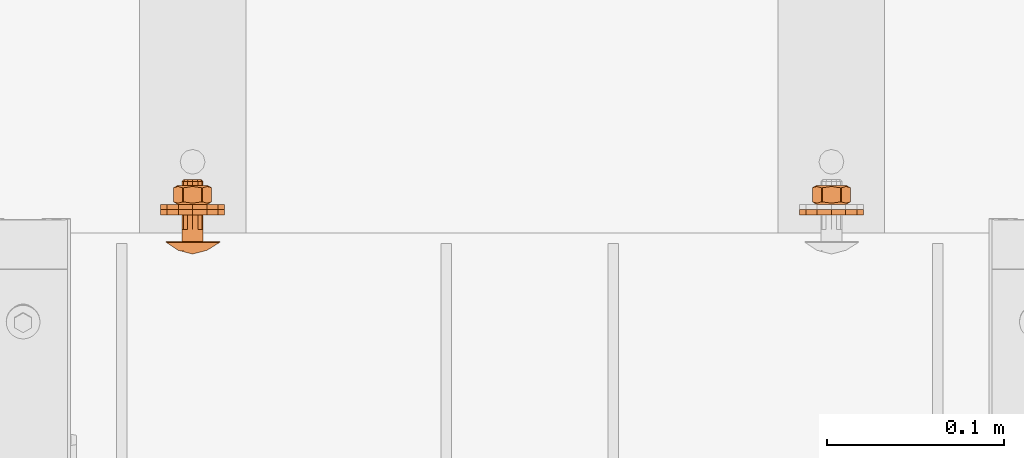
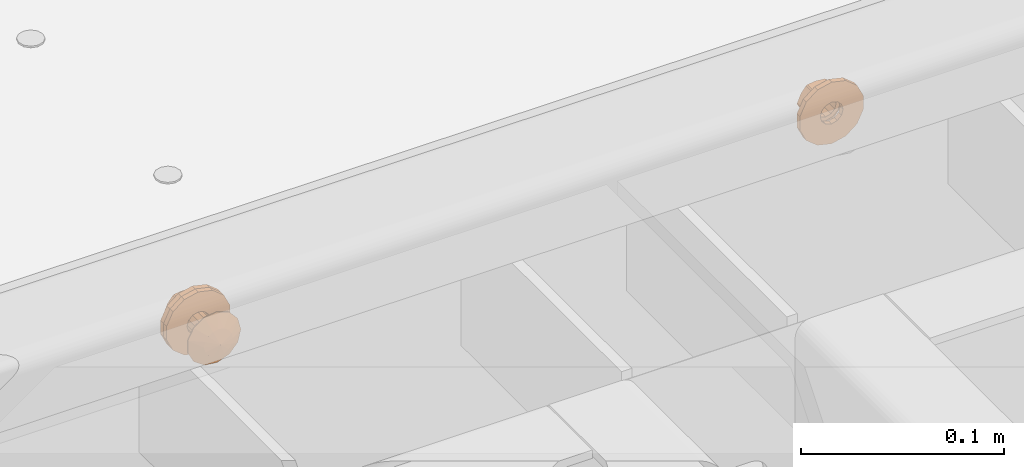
# One storey, part 110 of 116: 6 proxies.
"""IFC2X3 building model written with IfcOpenShell, lengths in millimetres."""

from ifc_helpers import new_model, entity, si_unit, converted_unit, origin_with_axes, place, context, project, spatial, faceted_brep, material, element, save


model = new_model("IFC2X3")

# Units and contexts
model_context = context("Model", 3, precision=1e-09, world=origin_with_axes())
ifc_project = project(units=[si_unit("LENGTHUNIT", "METRE", prefix="MILLI"), si_unit("AREAUNIT", "SQUARE_METRE"), si_unit("VOLUMEUNIT", "CUBIC_METRE"), converted_unit("PLANEANGLEUNIT", "DEGREE", entity("IfcPlaneAngleMeasure", 0.01745329), si_unit("PLANEANGLEUNIT", "RADIAN"), dimensions=[0, 0, 0, 0, 0, 0, 0])], contexts=[model_context])

# Site, building, storey
site_placement = place(None, origin_with_axes())
site = spatial("IfcSite", under=ifc_project, at=site_placement, Name="Site", CompositionType="ELEMENT")
building_placement = place(site_placement, origin_with_axes())
building = spatial("IfcBuilding", under=site, at=building_placement, Name="Struktur 1", CompositionType="ELEMENT")
storey_placement = place(building_placement, origin_with_axes())
storey = spatial("IfcBuildingStorey", under=building, at=storey_placement, Name="Default Storey", CompositionType="ELEMENT", Elevation=0.0)

# Proxies
ifc_material = material(Name="Kein")
proxy_1_placement = place(None, origin_with_axes())
element("IfcBuildingElementProxy", 1, at=proxy_1_placement, inside=storey, material=ifc_material, ObjectType="-", context=model_context, shape_type="Brep", body=[
    faceted_brep([(56576.514516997, 12032.358883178, -63.465438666), (56576.514516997, 12035.358883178, -63.465438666), (56570.077483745, 12035.358883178, -58.332075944), (56570.077483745, 12032.358883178, -58.332075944), (56580.086800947, 12032.358883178, -79.116637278), (56580.086800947, 12032.358883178, -70.883362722), (56562.050634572, 12032.358883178, -56.5), (56554.023785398, 12032.358883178, -58.332075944), (56547.586752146, 12032.358883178, -63.465438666), (56544.014468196, 12032.358883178, -70.883362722), (56544.014468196, 12032.358883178, -79.116637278), (56547.586752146, 12032.358883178, -86.534561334), (56554.023785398, 12032.358883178, -91.667924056), (56562.050634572, 12032.358883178, -93.5), (56570.077483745, 12032.358883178, -91.667924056), (56576.514516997, 12032.358883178, -86.534561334), (56567.679799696, 12032.358883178, -71.75), (56568.550634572, 12032.358883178, -75.0), (56567.679799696, 12032.358883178, -78.25), (56565.300634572, 12032.358883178, -80.629165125), (56562.050634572, 12032.358883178, -81.5), (56558.800634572, 12032.358883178, -80.629165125), (56556.421469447, 12032.358883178, -78.25), (56555.550634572, 12032.358883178, -75.0), (56556.421469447, 12032.358883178, -71.75), (56558.800634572, 12032.358883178, -69.370834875), (56562.050634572, 12032.358883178, -68.5), (56565.300634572, 12032.358883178, -69.370834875), (56554.023785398, 12035.358883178, -58.332075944), (56562.050634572, 12035.358883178, -56.5), (56580.086800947, 12035.358883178, -70.883362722), (56580.086800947, 12035.358883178, -79.116637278), (56576.514516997, 12035.358883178, -86.534561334), (56570.077483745, 12035.358883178, -91.667924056), (56562.050634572, 12035.358883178, -93.5), (56554.023785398, 12035.358883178, -91.667924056), (56547.586752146, 12035.358883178, -86.534561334), (56544.014468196, 12035.358883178, -79.116637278), (56544.014468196, 12035.358883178, -70.883362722), (56547.586752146, 12035.358883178, -63.465438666), (56562.050634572, 12035.358883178, -68.5), (56558.800634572, 12035.358883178, -69.370834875), (56556.421469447, 12035.358883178, -71.75), (56555.550634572, 12035.358883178, -75.0), (56556.421469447, 12035.358883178, -78.25), (56558.800634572, 12035.358883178, -80.629165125), (56562.050634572, 12035.358883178, -81.5), (56565.300634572, 12035.358883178, -80.629165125), (56567.679799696, 12035.358883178, -78.25), (56568.550634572, 12035.358883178, -75.0), (56567.679799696, 12035.358883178, -71.75), (56565.300634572, 12035.358883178, -69.370834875)], [[[0, 1, 2, 3]], [[4, 5, 0, 3, 6, 7, 8, 9, 10, 11, 12, 13, 14, 15], [16, 17, 18, 19, 20, 21, 22, 23, 24, 25, 26, 27]], [[28, 29, 2, 1, 30, 31, 32, 33, 34, 35, 36, 37, 38, 39], [40, 41, 42, 43, 44, 45, 46, 47, 48, 49, 50, 51]], [[1, 0, 5, 30]], [[27, 51, 50, 16]], [[51, 27, 26, 40]], [[3, 2, 29, 6]], [[30, 5, 4, 31]], [[16, 50, 49, 17]], [[40, 26, 25, 41]], [[6, 29, 28, 7]], [[31, 4, 15, 32]], [[17, 49, 48, 18]], [[41, 25, 24, 42]], [[7, 28, 39, 8]], [[32, 15, 14, 33]], [[18, 48, 47, 19]], [[42, 24, 23, 43]], [[8, 39, 38, 9]], [[33, 14, 13, 34]], [[19, 47, 46, 20]], [[22, 44, 43, 23]], [[9, 38, 37, 10]], [[45, 21, 20, 46]], [[44, 22, 21, 45]], [[34, 13, 12, 35]], [[10, 37, 36, 11]], [[35, 12, 11, 36]]]),
])
proxy_2_placement = place(None, origin_with_axes())
element("IfcBuildingElementProxy", 2, at=proxy_2_placement, inside=storey, material=ifc_material, ObjectType="-", context=model_context, shape_type="Brep", body=[
    faceted_brep([(56567.538668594, 12039.773542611, -65.756103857), (56567.538668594, 12047.744223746, -65.756103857), (56567.31206645, 12047.744223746, -65.625275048), (56567.31206645, 12039.773542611, -65.625275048), (56567.762019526, 12039.773542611, -65.892408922), (56566.200634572, 12038.358883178, -67.811989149), (56566.200634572, 12049.158883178, -67.811989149), (56567.762019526, 12047.744223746, -65.892408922), (56567.082347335, 12047.744223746, -65.5), (56567.082347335, 12039.773542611, -65.5), (56572.793732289, 12047.744223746, -74.607591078), (56572.793732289, 12039.773542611, -74.607591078), (56572.800100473, 12039.773542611, -74.869171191), (56572.800100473, 12047.744223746, -74.869171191), (56570.277875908, 12039.051703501, -70.25), (56570.277875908, 12048.466062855, -70.25), (56572.800100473, 12039.773542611, -75.130828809), (56572.800100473, 12047.744223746, -75.130828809), (56570.350634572, 12049.158883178, -75.0), (56562.050634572, 12048.466062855, -65.5), (56557.018921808, 12047.744223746, -65.5), (56557.018921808, 12039.773542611, -65.5), (56562.050634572, 12039.051703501, -65.5), (56572.793732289, 12039.773542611, -75.392408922), (56572.793732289, 12047.744223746, -75.392408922), (56570.350634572, 12038.358883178, -75.0), (56569.238645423, 12038.358883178, -70.85), (56562.050634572, 12038.358883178, -66.7), (56557.900634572, 12038.358883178, -67.811989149), (56554.86262372, 12038.358883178, -70.85), (56553.750634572, 12038.358883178, -75.0), (56554.86262372, 12038.358883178, -79.15), (56557.900634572, 12038.358883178, -82.188010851), (56562.050634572, 12038.358883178, -83.3), (56566.200634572, 12038.358883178, -82.188010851), (56569.238645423, 12038.358883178, -79.15), (56559.050634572, 12038.358883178, -69.803847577), (56562.050634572, 12038.358883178, -69.0), (56565.050634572, 12038.358883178, -69.803847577), (56567.246786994, 12038.358883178, -72.0), (56568.050634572, 12038.358883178, -75.0), (56567.246786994, 12038.358883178, -78.0), (56565.050634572, 12038.358883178, -80.196152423), (56562.050634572, 12038.358883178, -81.0), (56559.050634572, 12038.358883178, -80.196152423), (56556.854482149, 12038.358883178, -78.0), (56556.050634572, 12038.358883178, -75.0), (56556.854482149, 12038.358883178, -72.0), (56565.050634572, 12049.158883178, -69.803847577), (56567.246786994, 12049.158883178, -72.0), (56569.238645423, 12049.158883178, -70.85), (56569.238645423, 12049.158883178, -79.15), (56566.200634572, 12049.158883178, -82.188010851), (56562.050634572, 12049.158883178, -83.3), (56557.900634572, 12049.158883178, -82.188010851), (56554.86262372, 12049.158883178, -79.15), (56553.750634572, 12049.158883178, -75.0), (56554.86262372, 12049.158883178, -70.85), (56557.900634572, 12049.158883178, -67.811989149), (56562.050634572, 12049.158883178, -66.7), (56568.050634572, 12049.158883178, -75.0), (56562.050634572, 12049.158883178, -69.0), (56559.050634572, 12049.158883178, -69.803847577), (56556.854482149, 12049.158883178, -72.0), (56556.050634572, 12049.158883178, -75.0), (56556.854482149, 12049.158883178, -78.0), (56559.050634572, 12049.158883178, -80.196152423), (56562.050634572, 12049.158883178, -81.0), (56565.050634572, 12049.158883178, -80.196152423), (56567.246786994, 12049.158883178, -78.0), (56556.789202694, 12047.744223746, -65.625275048), (56556.789202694, 12039.773542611, -65.625275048), (56570.277875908, 12039.051703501, -79.75), (56567.762019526, 12039.773542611, -84.107591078), (56567.762019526, 12047.744223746, -84.107591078), (56570.277875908, 12048.466062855, -79.75), (56556.562600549, 12047.744223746, -65.756103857), (56556.562600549, 12039.773542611, -65.756103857), (56556.339249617, 12047.744223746, -65.892408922), (56556.339249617, 12039.773542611, -65.892408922), (56553.823393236, 12048.466062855, -70.25), (56551.307536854, 12047.744223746, -74.607591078), (56551.307536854, 12039.773542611, -74.607591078), (56553.823393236, 12039.051703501, -70.25), (56567.538668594, 12039.773542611, -84.243896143), (56567.538668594, 12047.744223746, -84.243896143), (56551.301168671, 12047.744223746, -74.869171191), (56551.301168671, 12039.773542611, -74.869171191), (56567.31206645, 12039.773542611, -84.374724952), (56567.31206645, 12047.744223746, -84.374724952), (56551.301168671, 12047.744223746, -75.130828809), (56551.301168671, 12039.773542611, -75.130828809), (56567.082347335, 12039.773542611, -84.5), (56567.082347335, 12047.744223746, -84.5), (56551.307536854, 12047.744223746, -75.392408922), (56551.307536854, 12039.773542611, -75.392408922), (56562.050634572, 12039.051703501, -84.5), (56557.018921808, 12039.773542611, -84.5), (56557.018921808, 12047.744223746, -84.5), (56562.050634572, 12048.466062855, -84.5), (56553.823393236, 12048.466062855, -79.75), (56556.339249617, 12047.744223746, -84.107591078), (56556.339249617, 12039.773542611, -84.107591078), (56553.823393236, 12039.051703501, -79.75), (56556.789202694, 12039.773542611, -84.374724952), (56556.789202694, 12047.744223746, -84.374724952), (56556.562600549, 12039.773542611, -84.243896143), (56556.562600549, 12047.744223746, -84.243896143)], [[[0, 1, 2, 3]], [[4, 0, 5]], [[1, 6, 2]], [[1, 0, 4, 7]], [[8, 9, 3, 2]], [[3, 5, 0]], [[8, 2, 6]], [[10, 11, 12, 13]], [[14, 11, 10, 15, 7, 4]], [[14, 4, 5]], [[1, 7, 6]], [[13, 12, 16, 17]], [[10, 13, 18]], [[8, 19, 20, 21, 22, 9]], [[3, 9, 5]], [[19, 8, 6]], [[23, 24, 17, 16]], [[12, 25, 16]], [[14, 5, 26]], [[5, 27, 28, 29, 30, 31, 32, 33, 34, 35, 25, 26], [36, 37, 38, 39, 40, 41, 42, 43, 44, 45, 46, 47]], [[38, 48, 49, 39]], [[7, 50, 6]], [[6, 50, 18, 51, 52, 53, 54, 55, 56, 57, 58, 59], [60, 49, 48, 61, 62, 63, 64, 65, 66, 67, 68, 69]], [[17, 18, 13]], [[7, 15, 50]], [[15, 10, 18]], [[21, 20, 70, 71]], [[9, 27, 5]], [[19, 6, 59]], [[48, 38, 37, 61]], [[72, 73, 74, 75, 24, 23]], [[23, 16, 25]], [[12, 11, 25]], [[11, 14, 26]], [[17, 24, 18]], [[15, 18, 50]], [[21, 71, 28]], [[71, 70, 76, 77]], [[9, 22, 27]], [[22, 21, 28]], [[70, 20, 58]], [[20, 19, 59]], [[70, 58, 76]], [[78, 79, 77, 76]], [[24, 75, 51]], [[72, 23, 25]], [[11, 26, 25]], [[39, 49, 60, 40]], [[24, 51, 18]], [[77, 28, 71]], [[22, 28, 27]], [[61, 37, 36, 62]], [[20, 59, 58]], [[78, 76, 58]], [[78, 80, 81, 82, 83, 79]], [[75, 52, 51]], [[72, 25, 35]], [[77, 79, 28]], [[80, 78, 58]], [[75, 74, 52]], [[74, 73, 84, 85]], [[73, 72, 35]], [[40, 60, 69, 41]], [[79, 83, 29]], [[83, 82, 30]], [[82, 81, 86, 87]], [[79, 29, 28]], [[62, 36, 47, 63]], [[80, 58, 57]], [[74, 85, 52]], [[85, 84, 88, 89]], [[73, 35, 34]], [[84, 73, 34]], [[83, 30, 29]], [[82, 87, 30]], [[87, 86, 90, 91]], [[81, 80, 57]], [[81, 56, 86]], [[89, 52, 85]], [[89, 88, 92, 93]], [[68, 42, 41, 69]], [[84, 34, 88]], [[91, 30, 87]], [[91, 90, 94, 95]], [[63, 47, 46, 64]], [[81, 57, 56]], [[90, 86, 56]], [[89, 93, 52]], [[42, 68, 67, 43]], [[66, 44, 43, 67]], [[92, 88, 34]], [[91, 95, 30]], [[45, 65, 64, 46]], [[94, 90, 56]], [[93, 53, 52]], [[96, 97, 98, 99, 93, 92]], [[44, 66, 65, 45]], [[96, 92, 34]], [[95, 31, 30]], [[94, 100, 101, 102, 103, 95]], [[94, 56, 100]], [[93, 99, 53]], [[96, 34, 33]], [[95, 103, 31]], [[100, 56, 55]], [[99, 54, 53]], [[97, 96, 33]], [[103, 32, 31]], [[101, 100, 55]], [[99, 98, 54]], [[97, 33, 32]], [[102, 32, 103]], [[101, 55, 54]], [[98, 97, 104, 105]], [[98, 105, 54]], [[97, 32, 104]], [[102, 106, 32]], [[102, 101, 107, 106]], [[107, 101, 54]], [[107, 54, 105]], [[106, 104, 32]], [[105, 104, 106, 107]]]),
])
proxy_3_placement = place(None, origin_with_axes())
element("IfcBuildingElementProxy", 3, at=proxy_3_placement, inside=storey, material=ifc_material, ObjectType="-", context=model_context, shape_type="Brep", body=[
    faceted_brep([(56566.380761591, 12052.358883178, -72.5), (56567.246786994, 12051.358883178, -72.0), (56568.050634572, 12051.358883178, -75.0), (56567.050634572, 12052.358883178, -75.0), (56564.550634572, 12052.358883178, -70.669872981), (56565.050634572, 12051.358883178, -69.803847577), (56557.720507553, 12052.358883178, -72.5), (56559.550634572, 12052.358883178, -70.669872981), (56562.050634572, 12052.358883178, -70.0), (56566.380761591, 12052.358883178, -77.5), (56564.550634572, 12052.358883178, -79.330127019), (56562.050634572, 12052.358883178, -80.0), (56559.550634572, 12052.358883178, -79.330127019), (56557.720507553, 12052.358883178, -77.5), (56557.050634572, 12052.358883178, -75.0), (56575.620248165, 12017.011383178, -67.878117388), (56570.756226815, 12017.011383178, -62.387772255), (56567.83032902, 12012.523540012, -69.220305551), (56569.602169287, 12012.523540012, -71.872051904), (56562.050634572, 12051.358883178, -69.0), (56565.050634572, 12024.308883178, -69.803847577), (56567.246786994, 12024.308883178, -72.0), (56577.375634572, 12017.011383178, -75.0), (56575.620248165, 12017.358883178, -67.878117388), (56570.756226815, 12017.358883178, -62.387772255), (56567.246786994, 12051.358883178, -78.0), (56565.050634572, 12051.358883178, -80.196152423), (56568.050634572, 12024.308883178, -75.0), (56570.224356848, 12012.523540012, -75.0), (56565.178582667, 12012.523540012, -67.448465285), (56562.050634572, 12010.408883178, -75.0), (56563.897859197, 12017.011383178, -59.786736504), (56559.050634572, 12051.358883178, -69.803847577), (56562.050634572, 12024.308883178, -69.0), (56563.897859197, 12017.358883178, -59.786736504), (56556.854482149, 12051.358883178, -72.0), (56556.050634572, 12051.358883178, -75.0), (56577.375634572, 12017.358883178, -75.0), (56556.854482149, 12051.358883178, -78.0), (56559.050634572, 12051.358883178, -80.196152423), (56562.050634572, 12051.358883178, -81.0), (56568.050634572, 12024.308883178, -69.0), (56569.602169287, 12012.523540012, -78.127948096), (56562.050634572, 12012.523540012, -66.826277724), (56556.616314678, 12017.011383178, -60.670876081), (56559.050634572, 12024.308883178, -69.803847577), (56550.579707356, 12017.358883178, -64.837645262), (56556.616314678, 12017.358883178, -60.670876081), (56575.620248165, 12017.358883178, -82.121882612), (56570.756226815, 12017.358883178, -87.612227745), (56563.897859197, 12017.358883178, -90.213263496), (56556.616314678, 12017.358883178, -89.329123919), (56550.579707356, 12017.358883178, -85.162354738), (56547.17095122, 12017.358883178, -78.667512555), (56547.17095122, 12017.358883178, -71.332487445), (56556.050634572, 12017.358883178, -69.0), (56556.050634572, 12017.358883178, -81.0), (56568.050634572, 12017.358883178, -81.0), (56568.050634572, 12017.358883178, -69.0), (56575.620248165, 12017.011383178, -82.121882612), (56567.246786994, 12024.308883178, -78.0), (56565.050634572, 12024.308883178, -80.196152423), (56567.83032902, 12012.523540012, -80.779694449), (56558.922686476, 12012.523540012, -67.448465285), (56556.854482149, 12024.308883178, -72.0), (56556.050634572, 12024.308883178, -69.0), (56556.050634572, 12024.308883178, -75.0), (56556.854482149, 12024.308883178, -78.0), (56559.050634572, 12024.308883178, -80.196152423), (56562.050634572, 12024.308883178, -81.0), (56568.050634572, 12024.308883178, -81.0), (56570.756226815, 12017.011383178, -87.612227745), (56556.270940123, 12012.523540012, -69.220305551), (56550.579707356, 12017.011383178, -64.837645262), (56556.050634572, 12024.308883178, -81.0), (56565.178582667, 12012.523540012, -82.551534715), (56554.499099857, 12012.523540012, -71.872051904), (56563.897859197, 12017.011383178, -90.213263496), (56562.050634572, 12012.523540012, -83.173722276), (56547.17095122, 12017.011383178, -71.332487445), (56558.922686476, 12012.523540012, -82.551534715), (56553.876912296, 12012.523540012, -75.0), (56556.616314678, 12017.011383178, -89.329123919), (56556.270940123, 12012.523540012, -80.779694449), (56547.17095122, 12017.011383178, -78.667512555), (56554.499099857, 12012.523540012, -78.127948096), (56550.579707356, 12017.011383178, -85.162354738)], [[[0, 1, 2, 3]], [[1, 0, 4, 5]], [[6, 7, 8, 4, 0, 3, 9, 10, 11, 12, 13, 14]], [[15, 16, 17]], [[15, 17, 18]], [[8, 19, 5, 4]], [[5, 20, 21, 1]], [[18, 22, 15]], [[16, 15, 23, 24]], [[9, 25, 26, 10]], [[3, 2, 25, 9]], [[1, 21, 27, 2]], [[18, 28, 22]], [[16, 29, 17]], [[30, 18, 17]], [[16, 31, 29]], [[7, 32, 19, 8]], [[20, 5, 19, 33]], [[24, 34, 31, 16]], [[6, 35, 32, 7]], [[14, 36, 35, 6]], [[15, 22, 37, 23]], [[13, 38, 36, 14]], [[12, 39, 38, 13]], [[11, 40, 39, 12]], [[10, 26, 40, 11]], [[33, 41, 27, 21, 20]], [[28, 42, 22]], [[30, 28, 18]], [[31, 43, 29]], [[30, 17, 29]], [[31, 44, 43]], [[32, 45, 33, 19]], [[46, 47, 34, 24, 23, 37, 48, 49, 50, 51, 52, 53, 54], [55, 56, 57, 58]], [[59, 22, 42]], [[25, 60, 61, 26]], [[2, 27, 60, 25]], [[59, 42, 62]], [[28, 30, 42]], [[30, 29, 43]], [[44, 63, 43]], [[44, 31, 34, 47]], [[45, 32, 35, 64]], [[41, 33, 65, 55, 58]], [[36, 66, 64, 35]], [[38, 67, 66, 36]], [[22, 59, 48, 37]], [[67, 38, 39, 68]], [[40, 69, 68, 39]], [[26, 61, 69, 40]], [[58, 57, 70, 27, 41]], [[71, 59, 62]], [[30, 62, 42]], [[30, 43, 63]], [[44, 72, 63]], [[73, 72, 44]], [[47, 46, 73, 44]], [[66, 65, 33, 45, 64]], [[69, 74, 66, 67, 68]], [[27, 70, 69, 61, 60]], [[59, 71, 49, 48]], [[71, 62, 75]], [[30, 75, 62]], [[72, 30, 63]], [[73, 76, 72]], [[77, 71, 75]], [[30, 78, 75]], [[46, 54, 79, 73]], [[76, 30, 72]], [[79, 76, 73]], [[65, 66, 74, 56, 55]], [[74, 69, 70, 57, 56]], [[71, 77, 50, 49]], [[77, 75, 78]], [[30, 80, 78]], [[81, 30, 76]], [[79, 81, 76]], [[82, 77, 78]], [[80, 30, 83]], [[82, 78, 80]], [[54, 53, 84, 79]], [[85, 30, 81]], [[84, 81, 79]], [[83, 30, 85]], [[77, 82, 51, 50]], [[82, 80, 83]], [[84, 85, 81]], [[86, 83, 85]], [[82, 83, 86]], [[53, 52, 86, 84]], [[86, 85, 84]], [[82, 86, 52, 51]]]),
])
proxy_4_placement = place(None, origin_with_axes())
element("IfcBuildingElementProxy", 4, at=proxy_4_placement, inside=storey, material=ifc_material, ObjectType="-", context=model_context, shape_type="Brep", body=[
    faceted_brep([(56576.514516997, 12035.358883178, -63.465438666), (56576.514516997, 12038.358883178, -63.465438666), (56570.077483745, 12038.358883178, -58.332075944), (56570.077483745, 12035.358883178, -58.332075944), (56580.086800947, 12035.358883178, -79.116637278), (56580.086800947, 12035.358883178, -70.883362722), (56562.050634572, 12035.358883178, -56.5), (56554.023785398, 12035.358883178, -58.332075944), (56547.586752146, 12035.358883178, -63.465438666), (56544.014468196, 12035.358883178, -70.883362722), (56544.014468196, 12035.358883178, -79.116637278), (56547.586752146, 12035.358883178, -86.534561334), (56554.023785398, 12035.358883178, -91.667924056), (56562.050634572, 12035.358883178, -93.5), (56570.077483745, 12035.358883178, -91.667924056), (56576.514516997, 12035.358883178, -86.534561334), (56567.679799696, 12035.358883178, -71.75), (56568.550634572, 12035.358883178, -75.0), (56567.679799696, 12035.358883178, -78.25), (56565.300634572, 12035.358883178, -80.629165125), (56562.050634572, 12035.358883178, -81.5), (56558.800634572, 12035.358883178, -80.629165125), (56556.421469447, 12035.358883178, -78.25), (56555.550634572, 12035.358883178, -75.0), (56556.421469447, 12035.358883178, -71.75), (56558.800634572, 12035.358883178, -69.370834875), (56562.050634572, 12035.358883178, -68.5), (56565.300634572, 12035.358883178, -69.370834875), (56554.023785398, 12038.358883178, -58.332075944), (56562.050634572, 12038.358883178, -56.5), (56580.086800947, 12038.358883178, -70.883362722), (56580.086800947, 12038.358883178, -79.116637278), (56576.514516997, 12038.358883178, -86.534561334), (56570.077483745, 12038.358883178, -91.667924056), (56562.050634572, 12038.358883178, -93.5), (56554.023785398, 12038.358883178, -91.667924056), (56547.586752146, 12038.358883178, -86.534561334), (56544.014468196, 12038.358883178, -79.116637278), (56544.014468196, 12038.358883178, -70.883362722), (56547.586752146, 12038.358883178, -63.465438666), (56562.050634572, 12038.358883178, -68.5), (56558.800634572, 12038.358883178, -69.370834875), (56556.421469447, 12038.358883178, -71.75), (56555.550634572, 12038.358883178, -75.0), (56556.421469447, 12038.358883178, -78.25), (56558.800634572, 12038.358883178, -80.629165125), (56562.050634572, 12038.358883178, -81.5), (56565.300634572, 12038.358883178, -80.629165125), (56567.679799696, 12038.358883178, -78.25), (56568.550634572, 12038.358883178, -75.0), (56567.679799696, 12038.358883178, -71.75), (56565.300634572, 12038.358883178, -69.370834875)], [[[0, 1, 2, 3]], [[4, 5, 0, 3, 6, 7, 8, 9, 10, 11, 12, 13, 14, 15], [16, 17, 18, 19, 20, 21, 22, 23, 24, 25, 26, 27]], [[28, 29, 2, 1, 30, 31, 32, 33, 34, 35, 36, 37, 38, 39], [40, 41, 42, 43, 44, 45, 46, 47, 48, 49, 50, 51]], [[1, 0, 5, 30]], [[27, 51, 50, 16]], [[51, 27, 26, 40]], [[3, 2, 29, 6]], [[30, 5, 4, 31]], [[16, 50, 49, 17]], [[40, 26, 25, 41]], [[6, 29, 28, 7]], [[31, 4, 15, 32]], [[17, 49, 48, 18]], [[41, 25, 24, 42]], [[7, 28, 39, 8]], [[32, 15, 14, 33]], [[18, 48, 47, 19]], [[42, 24, 23, 43]], [[8, 39, 38, 9]], [[33, 14, 13, 34]], [[19, 47, 46, 20]], [[22, 44, 43, 23]], [[9, 38, 37, 10]], [[45, 21, 20, 46]], [[44, 22, 21, 45]], [[34, 13, 12, 35]], [[10, 37, 36, 11]], [[35, 12, 11, 36]]]),
])
proxy_5_placement = place(None, origin_with_axes())
element("IfcBuildingElementProxy", 5, at=proxy_5_placement, inside=storey, material=ifc_material, ObjectType="-", context=model_context, shape_type="Brep", body=[
    faceted_brep([(56936.514516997, 12032.358883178, -63.465438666), (56936.514516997, 12035.358883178, -63.465438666), (56930.077483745, 12035.358883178, -58.332075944), (56930.077483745, 12032.358883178, -58.332075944), (56940.086800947, 12032.358883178, -79.116637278), (56940.086800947, 12032.358883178, -70.883362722), (56922.050634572, 12032.358883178, -56.5), (56914.023785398, 12032.358883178, -58.332075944), (56907.586752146, 12032.358883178, -63.465438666), (56904.014468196, 12032.358883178, -70.883362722), (56904.014468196, 12032.358883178, -79.116637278), (56907.586752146, 12032.358883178, -86.534561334), (56914.023785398, 12032.358883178, -91.667924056), (56922.050634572, 12032.358883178, -93.5), (56930.077483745, 12032.358883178, -91.667924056), (56936.514516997, 12032.358883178, -86.534561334), (56927.679799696, 12032.358883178, -71.75), (56928.550634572, 12032.358883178, -75.0), (56927.679799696, 12032.358883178, -78.25), (56925.300634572, 12032.358883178, -80.629165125), (56922.050634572, 12032.358883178, -81.5), (56918.800634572, 12032.358883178, -80.629165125), (56916.421469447, 12032.358883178, -78.25), (56915.550634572, 12032.358883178, -75.0), (56916.421469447, 12032.358883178, -71.75), (56918.800634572, 12032.358883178, -69.370834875), (56922.050634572, 12032.358883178, -68.5), (56925.300634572, 12032.358883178, -69.370834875), (56914.023785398, 12035.358883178, -58.332075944), (56922.050634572, 12035.358883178, -56.5), (56940.086800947, 12035.358883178, -70.883362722), (56940.086800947, 12035.358883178, -79.116637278), (56936.514516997, 12035.358883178, -86.534561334), (56930.077483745, 12035.358883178, -91.667924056), (56922.050634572, 12035.358883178, -93.5), (56914.023785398, 12035.358883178, -91.667924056), (56907.586752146, 12035.358883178, -86.534561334), (56904.014468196, 12035.358883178, -79.116637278), (56904.014468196, 12035.358883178, -70.883362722), (56907.586752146, 12035.358883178, -63.465438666), (56922.050634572, 12035.358883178, -68.5), (56918.800634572, 12035.358883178, -69.370834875), (56916.421469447, 12035.358883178, -71.75), (56915.550634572, 12035.358883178, -75.0), (56916.421469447, 12035.358883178, -78.25), (56918.800634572, 12035.358883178, -80.629165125), (56922.050634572, 12035.358883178, -81.5), (56925.300634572, 12035.358883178, -80.629165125), (56927.679799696, 12035.358883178, -78.25), (56928.550634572, 12035.358883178, -75.0), (56927.679799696, 12035.358883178, -71.75), (56925.300634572, 12035.358883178, -69.370834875)], [[[0, 1, 2, 3]], [[4, 5, 0, 3, 6, 7, 8, 9, 10, 11, 12, 13, 14, 15], [16, 17, 18, 19, 20, 21, 22, 23, 24, 25, 26, 27]], [[28, 29, 2, 1, 30, 31, 32, 33, 34, 35, 36, 37, 38, 39], [40, 41, 42, 43, 44, 45, 46, 47, 48, 49, 50, 51]], [[1, 0, 5, 30]], [[27, 51, 50, 16]], [[51, 27, 26, 40]], [[3, 2, 29, 6]], [[30, 5, 4, 31]], [[16, 50, 49, 17]], [[40, 26, 25, 41]], [[6, 29, 28, 7]], [[31, 4, 15, 32]], [[17, 49, 48, 18]], [[41, 25, 24, 42]], [[7, 28, 39, 8]], [[32, 15, 14, 33]], [[18, 48, 47, 19]], [[42, 24, 23, 43]], [[8, 39, 38, 9]], [[33, 14, 13, 34]], [[19, 47, 46, 20]], [[22, 44, 43, 23]], [[9, 38, 37, 10]], [[45, 21, 20, 46]], [[44, 22, 21, 45]], [[34, 13, 12, 35]], [[10, 37, 36, 11]], [[35, 12, 11, 36]]]),
])
proxy_6_placement = place(None, origin_with_axes())
element("IfcBuildingElementProxy", 6, at=proxy_6_placement, inside=storey, material=ifc_material, ObjectType="-", context=model_context, shape_type="Brep", body=[
    faceted_brep([(56927.538668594, 12039.773542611, -65.756103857), (56927.538668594, 12047.744223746, -65.756103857), (56927.31206645, 12047.744223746, -65.625275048), (56927.31206645, 12039.773542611, -65.625275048), (56927.762019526, 12039.773542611, -65.892408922), (56926.200634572, 12038.358883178, -67.811989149), (56926.200634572, 12049.158883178, -67.811989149), (56927.762019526, 12047.744223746, -65.892408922), (56927.082347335, 12047.744223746, -65.5), (56927.082347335, 12039.773542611, -65.5), (56932.793732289, 12047.744223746, -74.607591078), (56932.793732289, 12039.773542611, -74.607591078), (56932.800100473, 12039.773542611, -74.869171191), (56932.800100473, 12047.744223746, -74.869171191), (56930.277875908, 12039.051703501, -70.25), (56930.277875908, 12048.466062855, -70.25), (56932.800100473, 12039.773542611, -75.130828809), (56932.800100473, 12047.744223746, -75.130828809), (56930.350634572, 12049.158883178, -75.0), (56922.050634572, 12048.466062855, -65.5), (56917.018921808, 12047.744223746, -65.5), (56917.018921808, 12039.773542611, -65.5), (56922.050634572, 12039.051703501, -65.5), (56932.793732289, 12039.773542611, -75.392408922), (56932.793732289, 12047.744223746, -75.392408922), (56930.350634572, 12038.358883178, -75.0), (56929.238645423, 12038.358883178, -70.85), (56922.050634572, 12038.358883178, -66.7), (56917.900634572, 12038.358883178, -67.811989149), (56914.86262372, 12038.358883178, -70.85), (56913.750634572, 12038.358883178, -75.0), (56914.86262372, 12038.358883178, -79.15), (56917.900634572, 12038.358883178, -82.188010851), (56922.050634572, 12038.358883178, -83.3), (56926.200634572, 12038.358883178, -82.188010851), (56929.238645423, 12038.358883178, -79.15), (56919.050634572, 12038.358883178, -69.803847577), (56922.050634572, 12038.358883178, -69.0), (56925.050634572, 12038.358883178, -69.803847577), (56927.246786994, 12038.358883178, -72.0), (56928.050634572, 12038.358883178, -75.0), (56927.246786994, 12038.358883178, -78.0), (56925.050634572, 12038.358883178, -80.196152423), (56922.050634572, 12038.358883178, -81.0), (56919.050634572, 12038.358883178, -80.196152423), (56916.854482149, 12038.358883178, -78.0), (56916.050634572, 12038.358883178, -75.0), (56916.854482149, 12038.358883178, -72.0), (56925.050634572, 12049.158883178, -69.803847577), (56927.246786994, 12049.158883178, -72.0), (56929.238645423, 12049.158883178, -70.85), (56929.238645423, 12049.158883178, -79.15), (56926.200634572, 12049.158883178, -82.188010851), (56922.050634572, 12049.158883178, -83.3), (56917.900634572, 12049.158883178, -82.188010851), (56914.86262372, 12049.158883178, -79.15), (56913.750634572, 12049.158883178, -75.0), (56914.86262372, 12049.158883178, -70.85), (56917.900634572, 12049.158883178, -67.811989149), (56922.050634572, 12049.158883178, -66.7), (56928.050634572, 12049.158883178, -75.0), (56922.050634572, 12049.158883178, -69.0), (56919.050634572, 12049.158883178, -69.803847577), (56916.854482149, 12049.158883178, -72.0), (56916.050634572, 12049.158883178, -75.0), (56916.854482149, 12049.158883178, -78.0), (56919.050634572, 12049.158883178, -80.196152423), (56922.050634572, 12049.158883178, -81.0), (56925.050634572, 12049.158883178, -80.196152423), (56927.246786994, 12049.158883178, -78.0), (56916.789202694, 12047.744223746, -65.625275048), (56916.789202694, 12039.773542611, -65.625275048), (56930.277875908, 12039.051703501, -79.75), (56927.762019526, 12039.773542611, -84.107591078), (56927.762019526, 12047.744223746, -84.107591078), (56930.277875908, 12048.466062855, -79.75), (56916.562600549, 12047.744223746, -65.756103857), (56916.562600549, 12039.773542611, -65.756103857), (56916.339249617, 12047.744223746, -65.892408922), (56916.339249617, 12039.773542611, -65.892408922), (56913.823393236, 12048.466062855, -70.25), (56911.307536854, 12047.744223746, -74.607591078), (56911.307536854, 12039.773542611, -74.607591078), (56913.823393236, 12039.051703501, -70.25), (56927.538668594, 12039.773542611, -84.243896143), (56927.538668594, 12047.744223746, -84.243896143), (56911.301168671, 12047.744223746, -74.869171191), (56911.301168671, 12039.773542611, -74.869171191), (56927.31206645, 12039.773542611, -84.374724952), (56927.31206645, 12047.744223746, -84.374724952), (56911.301168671, 12047.744223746, -75.130828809), (56911.301168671, 12039.773542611, -75.130828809), (56927.082347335, 12039.773542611, -84.5), (56927.082347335, 12047.744223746, -84.5), (56911.307536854, 12047.744223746, -75.392408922), (56911.307536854, 12039.773542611, -75.392408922), (56922.050634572, 12039.051703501, -84.5), (56917.018921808, 12039.773542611, -84.5), (56917.018921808, 12047.744223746, -84.5), (56922.050634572, 12048.466062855, -84.5), (56913.823393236, 12048.466062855, -79.75), (56916.339249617, 12047.744223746, -84.107591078), (56916.339249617, 12039.773542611, -84.107591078), (56913.823393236, 12039.051703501, -79.75), (56916.789202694, 12039.773542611, -84.374724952), (56916.789202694, 12047.744223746, -84.374724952), (56916.562600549, 12039.773542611, -84.243896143), (56916.562600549, 12047.744223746, -84.243896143)], [[[0, 1, 2, 3]], [[4, 0, 5]], [[1, 6, 2]], [[1, 0, 4, 7]], [[8, 9, 3, 2]], [[3, 5, 0]], [[8, 2, 6]], [[10, 11, 12, 13]], [[14, 11, 10, 15, 7, 4]], [[14, 4, 5]], [[1, 7, 6]], [[13, 12, 16, 17]], [[10, 13, 18]], [[8, 19, 20, 21, 22, 9]], [[3, 9, 5]], [[19, 8, 6]], [[23, 24, 17, 16]], [[12, 25, 16]], [[14, 5, 26]], [[5, 27, 28, 29, 30, 31, 32, 33, 34, 35, 25, 26], [36, 37, 38, 39, 40, 41, 42, 43, 44, 45, 46, 47]], [[38, 48, 49, 39]], [[7, 50, 6]], [[6, 50, 18, 51, 52, 53, 54, 55, 56, 57, 58, 59], [60, 49, 48, 61, 62, 63, 64, 65, 66, 67, 68, 69]], [[17, 18, 13]], [[7, 15, 50]], [[15, 10, 18]], [[21, 20, 70, 71]], [[9, 27, 5]], [[19, 6, 59]], [[48, 38, 37, 61]], [[72, 73, 74, 75, 24, 23]], [[23, 16, 25]], [[12, 11, 25]], [[11, 14, 26]], [[17, 24, 18]], [[15, 18, 50]], [[21, 71, 28]], [[71, 70, 76, 77]], [[9, 22, 27]], [[22, 21, 28]], [[70, 20, 58]], [[20, 19, 59]], [[70, 58, 76]], [[78, 79, 77, 76]], [[24, 75, 51]], [[72, 23, 25]], [[11, 26, 25]], [[39, 49, 60, 40]], [[24, 51, 18]], [[77, 28, 71]], [[22, 28, 27]], [[61, 37, 36, 62]], [[20, 59, 58]], [[78, 76, 58]], [[78, 80, 81, 82, 83, 79]], [[75, 52, 51]], [[72, 25, 35]], [[77, 79, 28]], [[80, 78, 58]], [[75, 74, 52]], [[74, 73, 84, 85]], [[73, 72, 35]], [[40, 60, 69, 41]], [[79, 83, 29]], [[83, 82, 30]], [[82, 81, 86, 87]], [[79, 29, 28]], [[62, 36, 47, 63]], [[80, 58, 57]], [[74, 85, 52]], [[85, 84, 88, 89]], [[73, 35, 34]], [[84, 73, 34]], [[83, 30, 29]], [[82, 87, 30]], [[87, 86, 90, 91]], [[81, 80, 57]], [[81, 56, 86]], [[89, 52, 85]], [[89, 88, 92, 93]], [[68, 42, 41, 69]], [[84, 34, 88]], [[91, 30, 87]], [[91, 90, 94, 95]], [[63, 47, 46, 64]], [[81, 57, 56]], [[90, 86, 56]], [[89, 93, 52]], [[42, 68, 67, 43]], [[66, 44, 43, 67]], [[92, 88, 34]], [[91, 95, 30]], [[45, 65, 64, 46]], [[94, 90, 56]], [[93, 53, 52]], [[96, 97, 98, 99, 93, 92]], [[44, 66, 65, 45]], [[96, 92, 34]], [[95, 31, 30]], [[94, 100, 101, 102, 103, 95]], [[94, 56, 100]], [[93, 99, 53]], [[96, 34, 33]], [[95, 103, 31]], [[100, 56, 55]], [[99, 54, 53]], [[97, 96, 33]], [[103, 32, 31]], [[101, 100, 55]], [[99, 98, 54]], [[97, 33, 32]], [[102, 32, 103]], [[101, 55, 54]], [[98, 97, 104, 105]], [[98, 105, 54]], [[97, 32, 104]], [[102, 106, 32]], [[102, 101, 107, 106]], [[107, 101, 54]], [[107, 54, 105]], [[106, 104, 32]], [[105, 104, 106, 107]]]),
])

save(model, "model.ifc")
